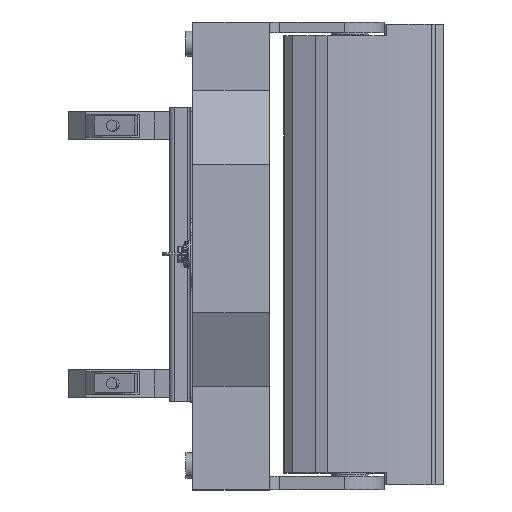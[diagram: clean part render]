
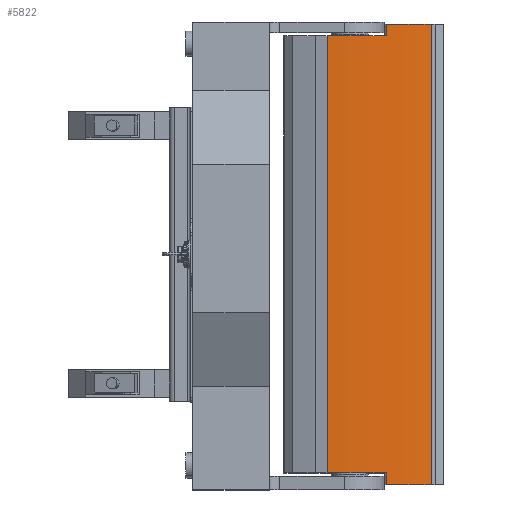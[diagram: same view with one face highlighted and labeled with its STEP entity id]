
A CAD part, top view. The second image highlights one B-rep face of the part: STEP entity #5822.
In plain terms, the highlighted cylindrical face has radius 717.98 mm (diameter 1435.96 mm), a partial arc.
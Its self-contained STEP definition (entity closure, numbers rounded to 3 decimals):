
#286=CYLINDRICAL_SURFACE('',#6360,717.98);
#402=CIRCLE('',#6361,717.98);
#403=CIRCLE('',#6362,717.98);
#404=CIRCLE('',#6363,717.98);
#405=CIRCLE('',#6364,717.98);
#884=ORIENTED_EDGE('',*,*,#2430,.T.);
#885=ORIENTED_EDGE('',*,*,#2431,.T.);
#886=ORIENTED_EDGE('',*,*,#2432,.T.);
#887=ORIENTED_EDGE('',*,*,#2433,.T.);
#888=ORIENTED_EDGE('',*,*,#2434,.F.);
#889=ORIENTED_EDGE('',*,*,#2435,.T.);
#890=ORIENTED_EDGE('',*,*,#2436,.T.);
#891=ORIENTED_EDGE('',*,*,#2437,.T.);
#2430=EDGE_CURVE('',#3220,#3221,#3752,.T.);
#2431=EDGE_CURVE('',#3221,#3222,#402,.T.);
#2432=EDGE_CURVE('',#3222,#3223,#3753,.T.);
#2433=EDGE_CURVE('',#3223,#3224,#403,.T.);
#2434=EDGE_CURVE('',#3225,#3224,#3754,.T.);
#2435=EDGE_CURVE('',#3225,#3226,#404,.T.);
#2436=EDGE_CURVE('',#3226,#3227,#3755,.T.);
#2437=EDGE_CURVE('',#3227,#3220,#405,.T.);
#3220=VERTEX_POINT('',#9023);
#3221=VERTEX_POINT('',#9024);
#3222=VERTEX_POINT('',#9026);
#3223=VERTEX_POINT('',#9028);
#3224=VERTEX_POINT('',#9030);
#3225=VERTEX_POINT('',#9032);
#3226=VERTEX_POINT('',#9034);
#3227=VERTEX_POINT('',#9036);
#3752=LINE('',#9022,#4308);
#3753=LINE('',#9027,#4309);
#3754=LINE('',#9031,#4310);
#3755=LINE('',#9035,#4311);
#4308=VECTOR('',#7241,1000.);
#4309=VECTOR('',#7244,1000.);
#4310=VECTOR('',#7247,1000.);
#4311=VECTOR('',#7250,1000.);
#4810=EDGE_LOOP('',(#884,#885,#886,#887,#888,#889,#890,#891));
#5230=FACE_BOUND('',#4810,.T.);
#5822=ADVANCED_FACE('',(#5230),#286,.T.);
#6360=AXIS2_PLACEMENT_3D('',#9021,#7239,#7240);
#6361=AXIS2_PLACEMENT_3D('',#9025,#7242,#7243);
#6362=AXIS2_PLACEMENT_3D('',#9029,#7245,#7246);
#6363=AXIS2_PLACEMENT_3D('',#9033,#7248,#7249);
#6364=AXIS2_PLACEMENT_3D('',#9037,#7251,#7252);
#7239=DIRECTION('',(0.,1.,0.));
#7240=DIRECTION('',(0.,0.,1.));
#7241=DIRECTION('',(0.,1.,0.));
#7242=DIRECTION('',(0.,-1.,0.));
#7243=DIRECTION('',(0.,0.,-1.));
#7244=DIRECTION('',(0.,1.,0.));
#7245=DIRECTION('',(0.,-1.,0.));
#7246=DIRECTION('',(0.,0.,-1.));
#7247=DIRECTION('',(0.,1.,0.));
#7248=DIRECTION('',(0.,1.,0.));
#7249=DIRECTION('',(0.,0.,1.));
#7250=DIRECTION('',(0.,1.,0.));
#7251=DIRECTION('',(0.,1.,0.));
#7252=DIRECTION('',(0.,0.,1.));
#9021=CARTESIAN_POINT('',(157.628,-500.,665.806));
#9022=CARTESIAN_POINT('',(141.8,-500.,-52.));
#9023=CARTESIAN_POINT('',(141.8,-237.297,-52.));
#9024=CARTESIAN_POINT('',(141.8,237.297,-52.));
#9025=CARTESIAN_POINT('',(157.628,237.297,665.806));
#9026=CARTESIAN_POINT('',(206.464,237.297,-50.512));
#9027=CARTESIAN_POINT('',(206.464,-500.,-50.512));
#9028=CARTESIAN_POINT('',(206.464,250.081,-50.512));
#9029=CARTESIAN_POINT('',(157.628,250.081,665.806));
#9030=CARTESIAN_POINT('',(255.3,250.081,-45.5));
#9031=CARTESIAN_POINT('',(255.3,-500.,-45.5));
#9032=CARTESIAN_POINT('',(255.3,-250.081,-45.5));
#9033=CARTESIAN_POINT('',(157.628,-250.081,665.806));
#9034=CARTESIAN_POINT('',(206.464,-250.081,-50.512));
#9035=CARTESIAN_POINT('',(206.464,-500.,-50.512));
#9036=CARTESIAN_POINT('',(206.464,-237.297,-50.512));
#9037=CARTESIAN_POINT('',(157.628,-237.297,665.806));
